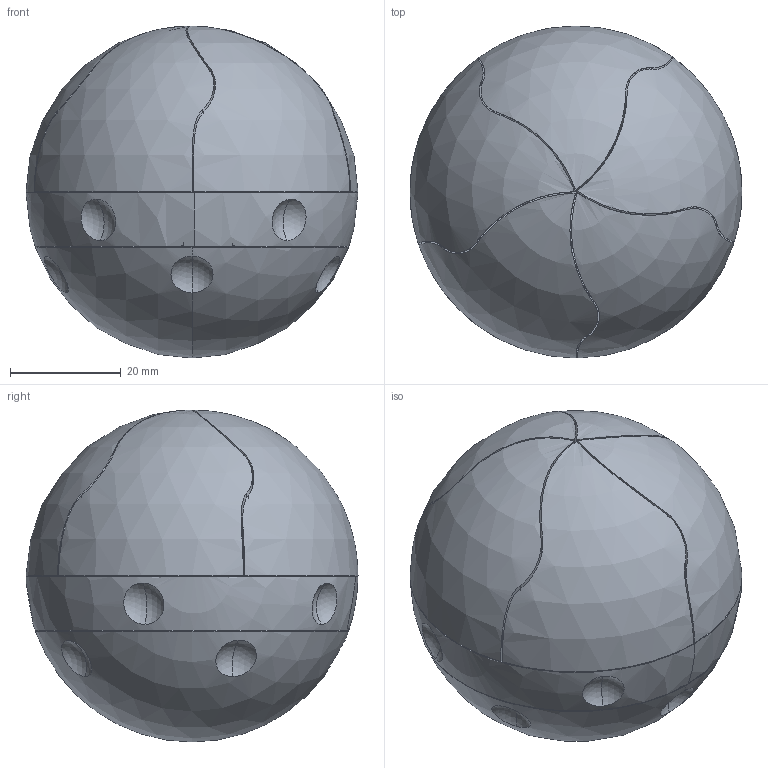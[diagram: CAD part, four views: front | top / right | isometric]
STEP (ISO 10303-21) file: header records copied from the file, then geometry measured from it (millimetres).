
FILE_DESCRIPTION (( 'STEP AP203' ), '1' );
FILE_NAME ('Iris Ball.STEP', '2012-08-28T03:30:32', ( '' ), ( '' ), 'SwSTEP 2.0', 'SolidWorks 2012', '' );
FILE_SCHEMA (( 'CONFIG_CONTROL_DESIGN' ));
Length unit declared in the file: millimetre
Products named in the file (5): Iris Ball; Pin; Ring; Leaf; Base
Assembly tree (12 placements, depth 2):
  Iris Ball
    Base
    Leaf  x5
    Ring
    Pin  x5
Bounding box: 60 x 60 x 60 mm (x, y, z)
Volume: 76523.8 mm3; surface area: 30425.2 mm2
Topology: 12 solids, 12 shells, 501 faces, 1237 edges, 766 vertices
Faces by surface type: cylinder 209, plane 125, cone 111, sphere 49, torus 7
Entity records: 6862 total; most frequent: CARTESIAN_POINT 1304, DIRECTION 1115, ORIENTED_EDGE 942, EDGE_CURVE 471, AXIS2_PLACEMENT_3D 465, VERTEX_POINT 290, CIRCLE 241, EDGE_LOOP 231
